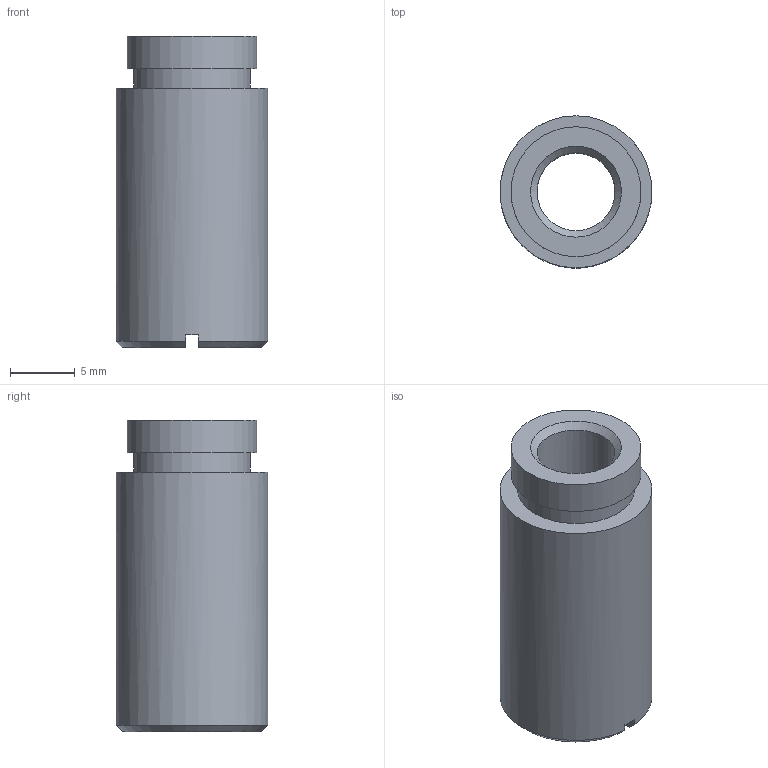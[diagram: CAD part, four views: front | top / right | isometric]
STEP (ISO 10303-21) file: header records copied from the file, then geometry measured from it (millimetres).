
FILE_DESCRIPTION(/* description */ ('Guid Projection Spring'),/* implementation_level */ '2;1');
FILE_NAME(/* name */ 'ITPTv2.01.00.34.stp',/* time_stamp */ '2025-02-12T11:22:07+01:00',/* author */ ('Rüdiger Widera'),/* organization */ (''),/* preprocessor_version */ 'ST-DEVELOPER v19.2',/* originating_system */ 'Autodesk Inventor 2024',/* authorisation */ '');
FILE_SCHEMA (('AUTOMOTIVE_DESIGN { 1 0 10303 214 3 1 1 }'));
Length unit declared in the file: millimetre
Products named in the file (1): ITPTv2.01.00.34
Bounding box: 11.7 x 11.7 x 24 mm (x, y, z)
Volume: 1748.8 mm3; surface area: 1482.9 mm2
Topology: 1 solids, 1 shells, 20 faces, 51 edges, 34 vertices
Faces by surface type: plane 11, cone 5, cylinder 4
Full cylindrical faces by diameter (mm): 6 x1, 9 x1, 10 x1, 11.7 x1
Entity records: 656 total; most frequent: CARTESIAN_POINT 122, DIRECTION 107, ORIENTED_EDGE 102, EDGE_CURVE 51, AXIS2_PLACEMENT_3D 43, VERTEX_POINT 34, EDGE_LOOP 23, CIRCLE 22
